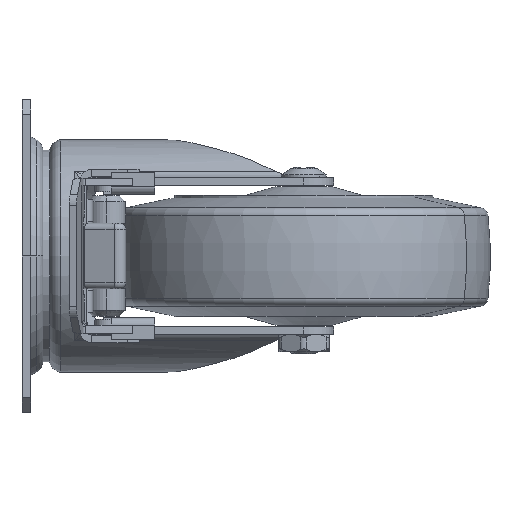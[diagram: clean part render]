
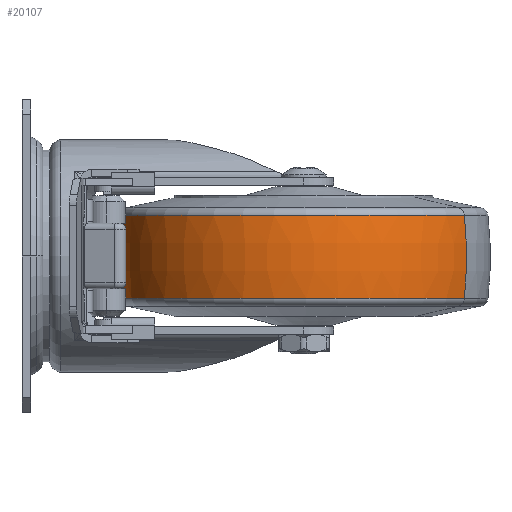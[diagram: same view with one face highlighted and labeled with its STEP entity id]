
A CAD part, left-side view. The second image highlights one B-rep face of the part: STEP entity #20107.
In plain terms, the highlighted toroidal (fillet/blend) face has major radius 62.5 mm and minor radius 125 mm.
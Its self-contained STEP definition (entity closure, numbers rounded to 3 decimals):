
#232 = VERTEX_POINT ( 'NONE', #5625 ) ;
#239 = VERTEX_POINT ( 'NONE', #5670 ) ;
#249 = EDGE_CURVE ( 'NONE', #20799, #239, #5648, .T. ) ;
#267 = VERTEX_POINT ( 'NONE', #5680 ) ;
#273 = EDGE_CURVE ( 'NONE', #232, #267, #4511, .T. ) ;
#4504 = DIRECTION ( 'NONE',  ( 0.489, 0.872, 0. ) ) ;
#4505 = DIRECTION ( 'NONE',  ( 0.872, -0.489, 0. ) ) ;
#4510 = AXIS2_PLACEMENT_3D ( 'NONE', #4667, #4505, #4504 ) ;
#4511 = CIRCLE ( 'NONE', #4510, 125. ) ;
#4667 = CARTESIAN_POINT ( 'NONE',  ( -146.932, -126.908, 55.479 ) ) ;
#5625 = CARTESIAN_POINT ( 'NONE',  ( -86.182, -18.551, 41.582 ) ) ;
#5648 = CIRCLE ( 'NONE', #5707, 125. ) ;
#5662 = CARTESIAN_POINT ( 'NONE',  ( -85.803, -17.875, 55.479 ) ) ;
#5670 = CARTESIAN_POINT ( 'NONE',  ( -146.553, -126.233, 69.375 ) ) ;
#5680 = CARTESIAN_POINT ( 'NONE',  ( -86.182, -18.551, 69.375 ) ) ;
#5705 = DIRECTION ( 'NONE',  ( -0.489, -0.872, 0. ) ) ;
#5706 = DIRECTION ( 'NONE',  ( -0.872, 0.489, 0. ) ) ;
#5707 = AXIS2_PLACEMENT_3D ( 'NONE', #5662, #5706, #5705 ) ;
#17109 = CIRCLE ( 'NONE', #17115, 61.725 ) ;
#17115 = AXIS2_PLACEMENT_3D ( 'NONE', #17116, #17157, #17156 ) ;
#17116 = CARTESIAN_POINT ( 'NONE',  ( -116.367, -72.392, 69.375 ) ) ;
#17156 = DIRECTION ( 'NONE',  ( -0.489, -0.872, 0. ) ) ;
#17157 = DIRECTION ( 'NONE',  ( 0., 0., 1. ) ) ;
#17555 = AXIS2_PLACEMENT_3D ( 'NONE', #17597, #17596, #17595 ) ;
#17563 = TOROIDAL_SURFACE ( 'NONE', #17555, -62.5, 125. ) ;
#17565 = DIRECTION ( 'NONE',  ( -0.489, -0.872, 0. ) ) ;
#17566 = DIRECTION ( 'NONE',  ( 0., 0., 1. ) ) ;
#17567 = CARTESIAN_POINT ( 'NONE',  ( -116.367, -72.392, 41.582 ) ) ;
#17568 = AXIS2_PLACEMENT_3D ( 'NONE', #17567, #17566, #17565 ) ;
#17569 = CIRCLE ( 'NONE', #17568, 61.725 ) ;
#17575 = FACE_OUTER_BOUND ( 'NONE', #20142, .T. ) ;
#17595 = DIRECTION ( 'NONE',  ( -0.489, -0.872, 0. ) ) ;
#17596 = DIRECTION ( 'NONE',  ( 0., 0., 1. ) ) ;
#17597 = CARTESIAN_POINT ( 'NONE',  ( -116.367, -72.392, 55.479 ) ) ;
#18688 = CARTESIAN_POINT ( 'NONE',  ( -146.553, -126.233, 41.582 ) ) ;
#19850 = EDGE_CURVE ( 'NONE', #267, #239, #17109, .T. ) ;
#19889 = ORIENTED_EDGE ( 'NONE', *, *, #20094, .T. ) ;
#19922 = ORIENTED_EDGE ( 'NONE', *, *, #273, .F. ) ;
#19987 = ORIENTED_EDGE ( 'NONE', *, *, #19850, .F. ) ;
#20036 = ORIENTED_EDGE ( 'NONE', *, *, #249, .T. ) ;
#20094 = EDGE_CURVE ( 'NONE', #232, #20799, #17569, .T. ) ;
#20107 = ADVANCED_FACE ( 'NONE', ( #17575 ), #17563, .T. ) ;
#20142 = EDGE_LOOP ( 'NONE', ( #19922, #19889, #20036, #19987 ) ) ;
#20799 = VERTEX_POINT ( 'NONE', #18688 ) ;
